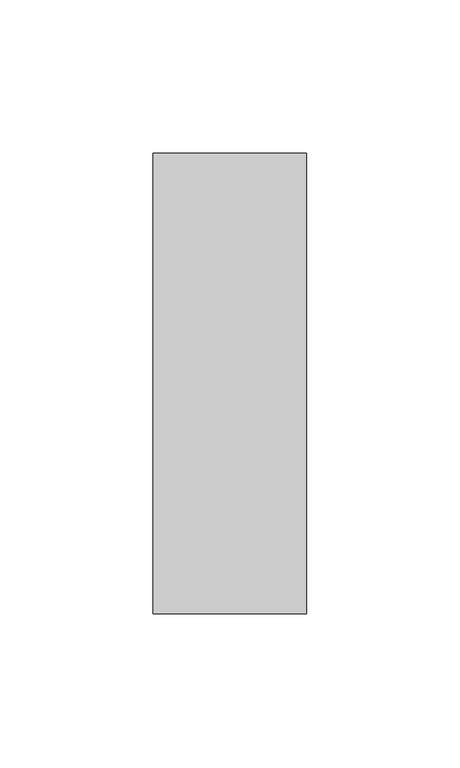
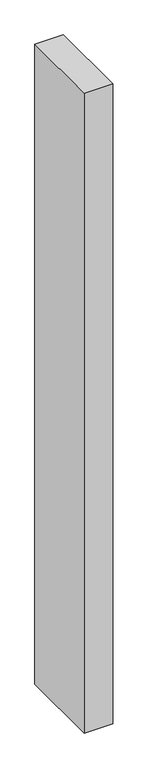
"""IFC4 building model written with IfcOpenShell, lengths in millimetres: member geometry, Прямоугольный импост : 50 x 150 мм."""

from ifc_helpers import new_model, si_unit, frame, origin, place, context, project, spatial, polyline, outline, extrude, source, transform, mapped, element, save


def member_9878ae34(model_context):
    return source(origin(), model_context, "Body", "SweptSolid", [
        extrude(outline(polyline([(25.0, 75.0), (25.0, -75.0), (-25.0, -75.0), (-25.0, 75.0), (25.0, 75.0)])), frame((0.0, 0.0, -1187.8463505), z_axis=(0.0, 0.0, 1.0), x_axis=(1.0, 0.0, 0.0)), (0.0, 0.0, 1.0), 1187.8463505),
    ])


if __name__ == "__main__":
    model = new_model("IFC4")
    model_context = context("Model", 3, world=origin())
    ifc_project = project(units=[si_unit("LENGTHUNIT", "METRE", prefix="MILLI")], contexts=[model_context])
    site = spatial("IfcSite", under=ifc_project)
    building = spatial("IfcBuilding", under=site)
    placement = place(None, origin())
    member_shape = member_9878ae34(model_context)
    element("IfcMember", 1, ObjectType="Прямоугольный импост : 50 x 150 мм", at=placement, inside=building, context=model_context, shape_type="MappedRepresentation", body=[
        mapped(member_shape, transform((0.0, 0.0, 0.0), x_axis=(1.0, 0.0, 0.0), y_axis=(0.0, 1.0, 0.0), z_axis=(0.0, 0.0, 1.0))),
    ])
    save(model, "model.ifc")
